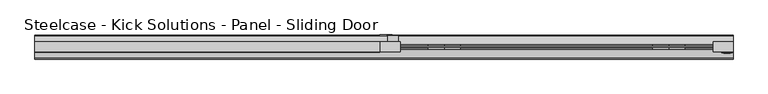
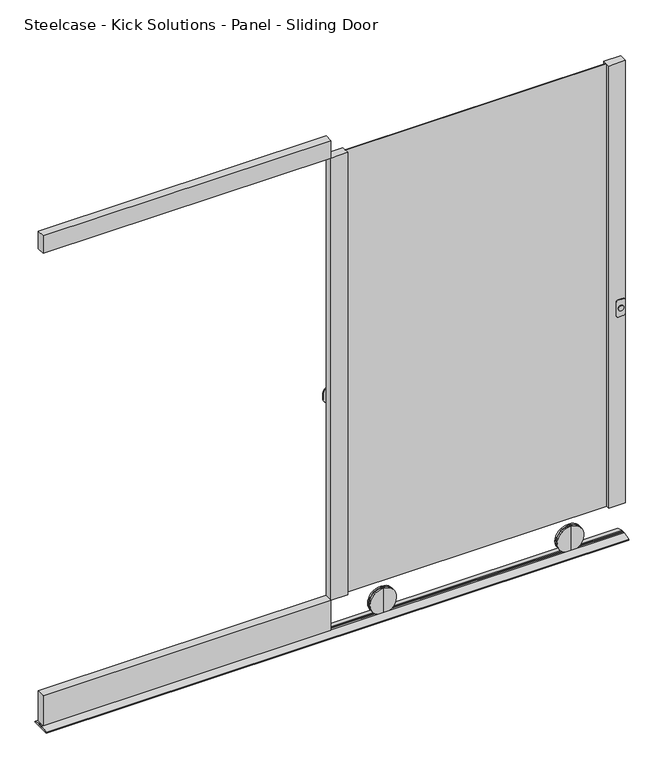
"""IFC4 building model written with IfcOpenShell, lengths in millimetres: furniture geometry, Steelcase - Kick Solutions - Panel - Sliding Door : 78H x 42W - Left Hand with Lock."""

from ifc_helpers import new_model, si_unit, point, frame, frame_2d, origin, place, context, project, spatial, polyline, circle_curve, trimmed, segment, composite_curve, outline, extrude, source, transform, mapped, element, save
from ifc_brep_helpers import plane_surface, cylinder_surface, advanced_brep


def steelcase_kick_solutions_panel_sliding_door_cfc9f59a(model_context):
    return source(origin(), model_context, "Body", "SolidModel", [
        extrude(outline(composite_curve([segment(trimmed(circle_curve(frame_2d((927.2505008, 1098.5500484)), 10.2804656), [point((937.5309664, 1098.5500484))], [point((916.9700352, 1098.5500484))], False, "CARTESIAN"), True, "CONTINUOUS"), segment(trimmed(circle_curve(frame_2d((927.2505008, 1098.5500484)), 10.2804656), [point((916.9700352, 1098.5500484))], [point((937.5309664, 1098.5500484))], False, "CARTESIAN"), True, "CONTINUOUS")], self_intersect=False)), frame((0.0, -46.3394499, 0.0), z_axis=(0.0, 1.0, 0.0), x_axis=(0.0, 0.0, 1.0)), (0.0, 0.0, 1.0), 2.159),
        extrude(outline(composite_curve([segment(polyline([(960.7539028, 1108.7923137), (960.7539028, 1088.4723137)]), True, "CONTINUOUS"), segment(trimmed(circle_curve(frame_2d((954.4039028, 1088.4723137)), 6.35), [point((960.7539028, 1088.4723137))], [point((954.4039028, 1082.1223137))], False, "CARTESIAN"), True, "CONTINUOUS"), segment(polyline([(954.4039028, 1082.1223137), (899.7939028, 1082.1223137)]), True, "CONTINUOUS"), segment(trimmed(circle_curve(frame_2d((899.7939028, 1088.4723137)), 6.35), [point((899.7939028, 1082.1223137))], [point((893.4439028, 1088.4723137))], False, "CARTESIAN"), True, "CONTINUOUS"), segment(polyline([(893.4439028, 1088.4723137), (893.4439028, 1108.7923137)]), True, "CONTINUOUS"), segment(trimmed(circle_curve(frame_2d((899.7939028, 1108.7923137)), 6.35), [point((893.4439028, 1108.7923137))], [point((899.7939028, 1115.1423137))], False, "CARTESIAN"), True, "CONTINUOUS"), segment(polyline([(899.7939028, 1115.1423137), (954.4039028, 1115.1423137)]), True, "CONTINUOUS"), segment(trimmed(circle_curve(frame_2d((954.4039028, 1108.7923137)), 6.35), [point((954.4039028, 1115.1423137))], [point((960.7539028, 1108.7923137))], False, "CARTESIAN"), True, "CONTINUOUS")], self_intersect=False)), frame((0.0, -44.1804499, 0.0), z_axis=(0.0, 1.0, 0.0), x_axis=(0.0, 0.0, 1.0)), (0.0, 0.0, 1.0), 2.1118392),
        extrude(outline(composite_curve([segment(polyline([(942.3399783, 38.2041062), (955.0399783, 38.2041062), (955.0399783, 22.4914583)]), True, "CONTINUOUS"), segment(trimmed(circle_curve(frame_2d((932.54852, 22.4914583)), 22.4914583), [point((955.0399783, 22.4914583))], [point((932.54852, 0.0))], False, "CARTESIAN"), True, "CONTINUOUS"), segment(polyline([(932.54852, 0.0), (913.3157475, 0.0)]), True, "CONTINUOUS"), segment(trimmed(circle_curve(frame_2d((913.3157475, 21.7757692)), 21.7757692), [point((913.3157475, 0.0))], [point((891.5399783, 21.7757692))], False, "CARTESIAN"), True, "CONTINUOUS"), segment(polyline([(891.5399783, 21.7757692), (891.5399783, 38.2041062), (904.2399783, 38.2041062), (904.2399783, 20.525442)]), True, "CONTINUOUS"), segment(trimmed(circle_curve(frame_2d((911.9613141, 20.525442)), 7.7213358), [point((904.2399783, 20.525442))], [point((911.9613141, 12.8041062))], True, "CARTESIAN"), True, "CONTINUOUS"), segment(polyline([(911.9613141, 12.8041062), (933.6356449, 12.8041062)]), True, "CONTINUOUS"), segment(trimmed(circle_curve(frame_2d((933.6356449, 21.5084396)), 8.7043334), [point((933.6356449, 12.8041062))], [point((942.3399783, 21.5084396))], True, "CARTESIAN"), True, "CONTINUOUS"), segment(polyline([(942.3399783, 21.5084396), (942.3399783, 38.2041062)]), True, "CONTINUOUS")], self_intersect=False)), frame((0.0, 9.7793101, 0.0), z_axis=(0.0, 1.0, 0.0), x_axis=(0.0, 0.0, 1.0)), (0.0, 0.0, 1.0), 2.1118397),
        extrude(outline(polyline([(58.3565349, -10.3186092), (25.3365349, -10.3186092), (25.3365349, 9.7793101), (58.3565349, 9.7793101), (58.3565349, -10.3186092)])), frame((0.0, 0.0, 828.6739028), z_axis=(0.0, 0.0, 1.0), x_axis=(1.0, 0.0, 0.0)), (0.0, 0.0, 1.0), 196.85),
        advanced_brep(
        [(914.4000484, -18.7010906, 6.7959428), (914.4000484, -18.7010906, 108.3959428), (914.4000484, -18.7010906, 57.5959428), (914.4000484, -23.8703628, 6.7959428), (914.4000484, -23.8703628, 108.3959428), (914.4000484, -23.8703628, 57.5959428)],
        [
            (0, 1, circle_curve(frame((914.4000484, -18.7010906, 57.5959428), z_axis=(0.0, 1.0, 0.0), x_axis=(0.0, 0.0, 1.0)), 50.8)),
            (1, 2),
            (2, 0),
            (1, 0, circle_curve(frame((914.4000484, -18.7010906, 57.5959428), z_axis=(0.0, 1.0, 0.0), x_axis=(0.0, 0.0, 1.0)), 50.8)),
            (3, 4, circle_curve(frame((914.4000484, -23.8703628, 57.5959428), z_axis=(0.0, 1.0, 0.0), x_axis=(0.0, 0.0, 1.0)), 50.8)),
            (4, 1),
            (0, 3),
            (4, 3, circle_curve(frame((914.4000484, -23.8703628, 57.5959428), z_axis=(0.0, 1.0, 0.0), x_axis=(0.0, 0.0, 1.0)), 50.8)),
            (5, 4),
            (3, 5),
        ],
        [
            plane_surface(frame((914.4000484, -18.7010906, 57.5959428), z_axis=(0.0, 1.0, 0.0), x_axis=(0.0, 0.0, 1.0))),
            cylinder_surface(frame((914.4000484, -28.422537, 57.5959428), z_axis=(0.0, -1.0, 0.0), x_axis=(0.0, 0.0, 1.0)), 50.8),
            plane_surface(frame((914.4000484, -23.8703628, 57.5959428), z_axis=(0.0, -1.0, 0.0), x_axis=(0.0, 0.0, 1.0))),
        ],
        [
            (0, [[1, 2, 3]]),
            (0, [[4, -3, -2]]),
            (1, [[5, 6, -1, 7]]),
            (1, [[8, -7, -4, -6]]),
            (2, [[9, -5, 10]]),
            (2, [[-10, -8, -9]]),
        ],
    ),
        advanced_brep(
        [(914.4000484, -28.422537, 6.7959428), (914.4000484, -28.422537, 108.3959428), (914.4000484, -28.422537, 57.5959428), (914.4000484, -33.4459111, 6.7959428), (914.4000484, -33.4459111, 108.3959428), (914.4000484, -33.4459111, 57.5959428)],
        [
            (0, 1, circle_curve(frame((914.4000484, -28.422537, 57.5959428), z_axis=(0.0, 1.0, 0.0), x_axis=(0.0, 0.0, 1.0)), 50.8)),
            (1, 2),
            (2, 0),
            (1, 0, circle_curve(frame((914.4000484, -28.422537, 57.5959428), z_axis=(0.0, 1.0, 0.0), x_axis=(0.0, 0.0, 1.0)), 50.8)),
            (3, 4, circle_curve(frame((914.4000484, -33.4459111, 57.5959428), z_axis=(0.0, 1.0, 0.0), x_axis=(0.0, 0.0, 1.0)), 50.8)),
            (4, 1),
            (0, 3),
            (4, 3, circle_curve(frame((914.4000484, -33.4459111, 57.5959428), z_axis=(0.0, 1.0, 0.0), x_axis=(0.0, 0.0, 1.0)), 50.8)),
            (5, 4),
            (3, 5),
        ],
        [
            plane_surface(frame((914.4000484, -28.422537, 57.5959428), z_axis=(0.0, 1.0, 0.0), x_axis=(0.0, 0.0, 1.0))),
            cylinder_surface(frame((914.4000484, -28.422537, 57.5959428), z_axis=(0.0, -1.0, 0.0), x_axis=(0.0, 0.0, 1.0)), 50.8),
            plane_surface(frame((914.4000484, -33.4459111, 57.5959428), z_axis=(0.0, -1.0, 0.0), x_axis=(0.0, 0.0, 1.0))),
        ],
        [
            (0, [[1, 2, 3]]),
            (0, [[4, -3, -2]]),
            (1, [[5, 6, -1, 7]]),
            (1, [[8, -7, -4, -6]]),
            (2, [[9, -5, 10]]),
            (2, [[-10, -8, -9]]),
        ],
    ),
        advanced_brep(
        [(203.2000484, -18.7010906, 6.7959428), (203.2000484, -18.7010906, 108.3959428), (203.2000484, -18.7010906, 57.5959428), (203.2000484, -23.8703628, 6.7959428), (203.2000484, -23.8703628, 108.3959428), (203.2000484, -23.8703628, 57.5959428)],
        [
            (0, 1, circle_curve(frame((203.2000484, -18.7010906, 57.5959428), z_axis=(0.0, 1.0, 0.0), x_axis=(0.0, 0.0, 1.0)), 50.8)),
            (1, 2),
            (2, 0),
            (1, 0, circle_curve(frame((203.2000484, -18.7010906, 57.5959428), z_axis=(0.0, 1.0, 0.0), x_axis=(0.0, 0.0, 1.0)), 50.8)),
            (3, 4, circle_curve(frame((203.2000484, -23.8703628, 57.5959428), z_axis=(0.0, 1.0, 0.0), x_axis=(0.0, 0.0, 1.0)), 50.8)),
            (4, 1),
            (0, 3),
            (4, 3, circle_curve(frame((203.2000484, -23.8703628, 57.5959428), z_axis=(0.0, 1.0, 0.0), x_axis=(0.0, 0.0, 1.0)), 50.8)),
            (5, 4),
            (3, 5),
        ],
        [
            plane_surface(frame((203.2000484, -18.7010906, 57.5959428), z_axis=(0.0, 1.0, 0.0), x_axis=(0.0, 0.0, 1.0))),
            cylinder_surface(frame((203.2000484, -28.422537, 57.5959428), z_axis=(0.0, -1.0, 0.0), x_axis=(0.0, 0.0, 1.0)), 50.8),
            plane_surface(frame((203.2000484, -23.8703628, 57.5959428), z_axis=(0.0, -1.0, 0.0), x_axis=(0.0, 0.0, 1.0))),
        ],
        [
            (0, [[1, 2, 3]]),
            (0, [[4, -3, -2]]),
            (1, [[5, 6, -1, 7]]),
            (1, [[8, -7, -4, -6]]),
            (2, [[9, -5, 10]]),
            (2, [[-10, -8, -9]]),
        ],
    ),
        advanced_brep(
        [(203.2000484, -28.422537, 6.7959428), (203.2000484, -28.422537, 108.3959428), (203.2000484, -28.422537, 57.5959428), (203.2000484, -33.4459111, 6.7959428), (203.2000484, -33.4459111, 108.3959428), (203.2000484, -33.4459111, 57.5959428)],
        [
            (0, 1, circle_curve(frame((203.2000484, -28.422537, 57.5959428), z_axis=(0.0, 1.0, 0.0), x_axis=(0.0, 0.0, 1.0)), 50.8)),
            (1, 2),
            (2, 0),
            (1, 0, circle_curve(frame((203.2000484, -28.422537, 57.5959428), z_axis=(0.0, 1.0, 0.0), x_axis=(0.0, 0.0, 1.0)), 50.8)),
            (3, 4, circle_curve(frame((203.2000484, -33.4459111, 57.5959428), z_axis=(0.0, 1.0, 0.0), x_axis=(0.0, 0.0, 1.0)), 50.8)),
            (4, 1),
            (0, 3),
            (4, 3, circle_curve(frame((203.2000484, -33.4459111, 57.5959428), z_axis=(0.0, 1.0, 0.0), x_axis=(0.0, 0.0, 1.0)), 50.8)),
            (5, 4),
            (3, 5),
        ],
        [
            plane_surface(frame((203.2000484, -28.422537, 57.5959428), z_axis=(0.0, 1.0, 0.0), x_axis=(0.0, 0.0, 1.0))),
            cylinder_surface(frame((203.2000484, -28.422537, 57.5959428), z_axis=(0.0, -1.0, 0.0), x_axis=(0.0, 0.0, 1.0)), 50.8),
            plane_surface(frame((203.2000484, -33.4459111, 57.5959428), z_axis=(0.0, -1.0, 0.0), x_axis=(0.0, 0.0, 1.0))),
        ],
        [
            (0, [[1, 2, 3]]),
            (0, [[4, -3, -2]]),
            (1, [[5, 6, -1, 7]]),
            (1, [[8, -7, -4, -6]]),
            (2, [[9, -5, 10]]),
            (2, [[-10, -8, -9]]),
        ],
    ),
        extrude(outline(polyline([(63.5000484, -42.0686107), (0.0, -42.0686107), (0.0, -10.3186092), (63.5000484, -10.3186092), (63.5000484, -42.0686107)])), frame((0.0, 0.0, 137.1589063), z_axis=(0.0, 0.0, 1.0), x_axis=(1.0, 0.0, 0.0)), (0.0, 0.0, 1.0), 1774.1911421),
        extrude(outline(polyline([(1117.6, -42.0686107), (1054.1000484, -42.0686107), (1054.1000484, -10.3186092), (1117.6, -10.3186092), (1117.6, -42.0686107)])), frame((0.0, 0.0, 137.1589063), z_axis=(0.0, 0.0, 1.0), x_axis=(1.0, 0.0, 0.0)), (0.0, 0.0, 1.0), 1774.1911421),
        extrude(outline(polyline([(-24.2505784, 6.2879429), (-17.9005799, 6.2879429), (-17.9005799, 12.2490843), (10.0049365, 3.0138476), (11.9383101, 0.0), (-64.2312094, 0.0), (-62.2978359, 3.0138476), (-34.3923194, 12.2490843), (-34.3923194, 6.2879429), (-28.042321, 6.2879429), (-28.042321, 12.6379425), (-24.2505784, 12.6379425), (-24.2505784, 6.2879429)])), frame((-1092.2, 0.0, 0.0), z_axis=(1.0, 0.0, 0.0), x_axis=(0.0, 1.0, 0.0)), (0.0, 0.0, 1.0), 2209.8),
        extrude(outline(polyline([(0.0, -10.3186092), (0.0, -42.0686107), (-1092.2, -42.0686107), (-1092.2, -10.3186092), (0.0, -10.3186092)])), frame((0.0, 0.0, 16.5089033), z_axis=(0.0, 0.0, 1.0), x_axis=(1.0, 0.0, 0.0)), (0.0, 0.0, 1.0), 120.650003),
        extrude(outline(polyline([(0.0, -10.3186092), (0.0, -42.0686107), (-1092.2, -42.0686107), (-1092.2, -10.3186092), (0.0, -10.3186092)])), frame((0.0, 0.0, 1911.3500484), z_axis=(0.0, 0.0, 1.0), x_axis=(1.0, 0.0, 0.0)), (0.0, 0.0, 1.0), 69.8499516),
        extrude(outline(polyline([(1054.1000484, -27.6369762), (63.5000484, -27.6369762), (63.5000484, -24.6559232), (1054.1000484, -24.6559232), (1054.1000484, -27.6369762)])), frame((0.0, 0.0, 137.1589063), z_axis=(0.0, 0.0, 1.0), x_axis=(1.0, 0.0, 0.0)), (0.0, 0.0, 1.0), 1774.1911421),
    ])


if __name__ == "__main__":
    model = new_model("IFC4")
    model_context = context("Model", 3, world=origin())
    ifc_project = project(units=[si_unit("LENGTHUNIT", "METRE", prefix="MILLI")], contexts=[model_context])
    site = spatial("IfcSite", under=ifc_project)
    building = spatial("IfcBuilding", under=site)
    placement = place(None, origin())
    steelcase_kick_solutions_panel_sliding_door_shape = steelcase_kick_solutions_panel_sliding_door_cfc9f59a(model_context)
    element("IfcFurniture", 1, ObjectType="Steelcase - Kick Solutions - Panel - Sliding Door : 78H x 42W - Left Hand with Lock", at=placement, inside=building, context=model_context, shape_type="MappedRepresentation", body=[
        mapped(steelcase_kick_solutions_panel_sliding_door_shape, transform((0.0, 0.0, 0.0), x_axis=(1.0, 0.0, 0.0), y_axis=(0.0, 1.0, 0.0), z_axis=(0.0, 0.0, 1.0))),
    ])
    save(model, "model.ifc")
